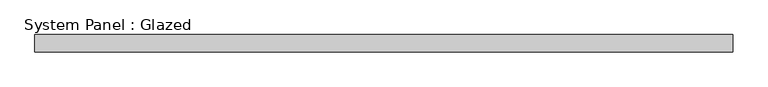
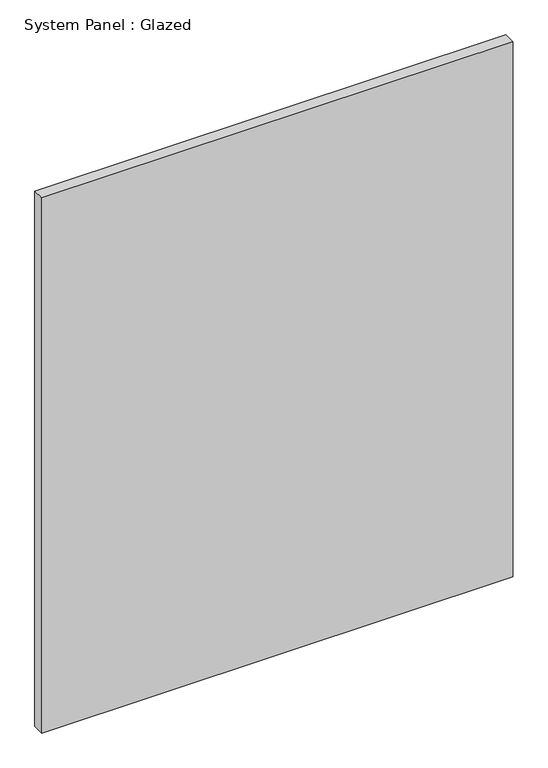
"""IFC4 building model written with IfcOpenShell, lengths in millimetres: plate geometry, System Panel : Glazed."""

from ifc_helpers import new_model, si_unit, origin, origin_with_axes, place, context, project, spatial, polyline, outline, extrude, source, transform, mapped, element, save


def system_panel_glazed_926b6355(model_context):
    return source(origin(), model_context, "Body", "SweptSolid", [
        extrude(outline(polyline([(500.0, 24.5), (-500.0, 24.5), (-500.0, 49.5), (500.0, 49.5), (500.0, 24.5)])), origin_with_axes(), (0.0, 0.0, 1.0), 1200.0),
    ])


if __name__ == "__main__":
    model = new_model("IFC4")
    model_context = context("Model", 3, world=origin())
    ifc_project = project(units=[si_unit("LENGTHUNIT", "METRE", prefix="MILLI")], contexts=[model_context])
    site = spatial("IfcSite", under=ifc_project)
    building = spatial("IfcBuilding", under=site)
    placement = place(None, origin())
    system_panel_glazed_shape = system_panel_glazed_926b6355(model_context)
    element("IfcPlate", 1, ObjectType="System Panel : Glazed", at=placement, inside=building, context=model_context, shape_type="MappedRepresentation", body=[
        mapped(system_panel_glazed_shape, transform((0.0, 0.0, 0.0), x_axis=(1.0, 0.0, 0.0), y_axis=(0.0, 1.0, 0.0), z_axis=(0.0, 0.0, 1.0))),
    ])
    save(model, "model.ifc")
